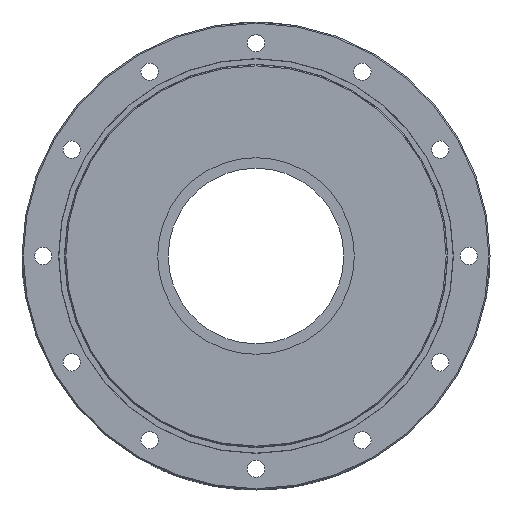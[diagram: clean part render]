
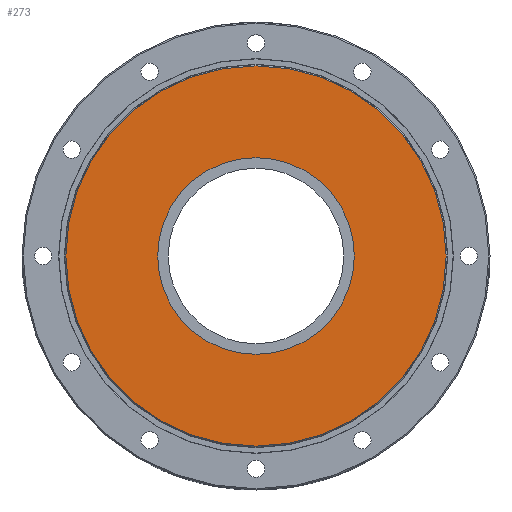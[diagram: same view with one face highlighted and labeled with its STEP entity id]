
A CAD part, front view. The second image highlights one B-rep face of the part: STEP entity #273.
In plain terms, the highlighted planar face has unit normal (0, -1, 0).
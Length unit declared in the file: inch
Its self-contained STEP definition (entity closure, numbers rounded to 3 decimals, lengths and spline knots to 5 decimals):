
#273 = ADVANCED_FACE ( 'NONE', ( #18088, #5179 ), #8144, .T. ) ;
#1260 = AXIS2_PLACEMENT_3D ( 'NONE', #9550, #21327, #11290 ) ;
#1611 = CARTESIAN_POINT ( 'NONE',  ( 4.21244, 3.42435, 10.75268 ) ) ;
#2225 = AXIS2_PLACEMENT_3D ( 'NONE', #17189, #7105, #18866 ) ;
#3428 = ORIENTED_EDGE ( 'NONE', *, *, #16889, .F. ) ;
#4896 = ORIENTED_EDGE ( 'NONE', *, *, #21704, .F. ) ;
#5179 = FACE_OUTER_BOUND ( 'NONE', #19240, .T. ) ;
#5637 = EDGE_CURVE ( 'NONE', #9696, #7786, #14881, .T. ) ;
#6519 = CARTESIAN_POINT ( 'NONE',  ( 8.68144, 3.42435, 8.44268 ) ) ;
#7105 = DIRECTION ( 'NONE',  ( 0., 1., 0. ) ) ;
#7251 = EDGE_LOOP ( 'NONE', ( #16421, #3428 ) ) ;
#7576 = VERTEX_POINT ( 'NONE', #20087 ) ;
#7786 = VERTEX_POINT ( 'NONE', #1611 ) ;
#8035 = CIRCLE ( 'NONE', #16649, 2.31 ) ;
#8144 = PLANE ( 'NONE',  #16827 ) ;
#8222 = DIRECTION ( 'NONE',  ( 0., 0., -1. ) ) ;
#8406 = CARTESIAN_POINT ( 'NONE',  ( 4.21244, 3.42435, 8.44268 ) ) ;
#9200 = CARTESIAN_POINT ( 'NONE',  ( 4.21244, 3.42435, 8.44268 ) ) ;
#9550 = CARTESIAN_POINT ( 'NONE',  ( 4.21244, 3.42435, 8.44268 ) ) ;
#9696 = VERTEX_POINT ( 'NONE', #16318 ) ;
#10099 = DIRECTION ( 'NONE',  ( 0., 0., -1. ) ) ;
#10738 = EDGE_CURVE ( 'NONE', #7576, #16250, #11704, .T. ) ;
#10942 = DIRECTION ( 'NONE',  ( 0., 0., -1. ) ) ;
#11290 = DIRECTION ( 'NONE',  ( 0., 0., 1. ) ) ;
#11704 = CIRCLE ( 'NONE', #1260, 4.469 ) ;
#14428 = CIRCLE ( 'NONE', #2225, 4.469 ) ;
#14881 = CIRCLE ( 'NONE', #20089, 2.31 ) ;
#16115 = ORIENTED_EDGE ( 'NONE', *, *, #10738, .F. ) ;
#16250 = VERTEX_POINT ( 'NONE', #18229 ) ;
#16318 = CARTESIAN_POINT ( 'NONE',  ( 4.21244, 3.42435, 6.13268 ) ) ;
#16421 = ORIENTED_EDGE ( 'NONE', *, *, #5637, .F. ) ;
#16649 = AXIS2_PLACEMENT_3D ( 'NONE', #9200, #20957, #10942 ) ;
#16827 = AXIS2_PLACEMENT_3D ( 'NONE', #6519, #18289, #8222 ) ;
#16889 = EDGE_CURVE ( 'NONE', #7786, #9696, #8035, .T. ) ;
#17189 = CARTESIAN_POINT ( 'NONE',  ( 4.21244, 3.42435, 8.44268 ) ) ;
#18088 = FACE_BOUND ( 'NONE', #7251, .T. ) ;
#18229 = CARTESIAN_POINT ( 'NONE',  ( 4.21244, 3.42435, 3.97368 ) ) ;
#18289 = DIRECTION ( 'NONE',  ( 0., -1., 0. ) ) ;
#18866 = DIRECTION ( 'NONE',  ( 0., 0., 1. ) ) ;
#19240 = EDGE_LOOP ( 'NONE', ( #16115, #4896 ) ) ;
#20087 = CARTESIAN_POINT ( 'NONE',  ( 4.21244, 3.42435, 12.91168 ) ) ;
#20089 = AXIS2_PLACEMENT_3D ( 'NONE', #8406, #20158, #10099 ) ;
#20158 = DIRECTION ( 'NONE',  ( 0., -1., 0. ) ) ;
#20957 = DIRECTION ( 'NONE',  ( 0., -1., 0. ) ) ;
#21327 = DIRECTION ( 'NONE',  ( 0., 1., 0. ) ) ;
#21704 = EDGE_CURVE ( 'NONE', #16250, #7576, #14428, .T. ) ;
